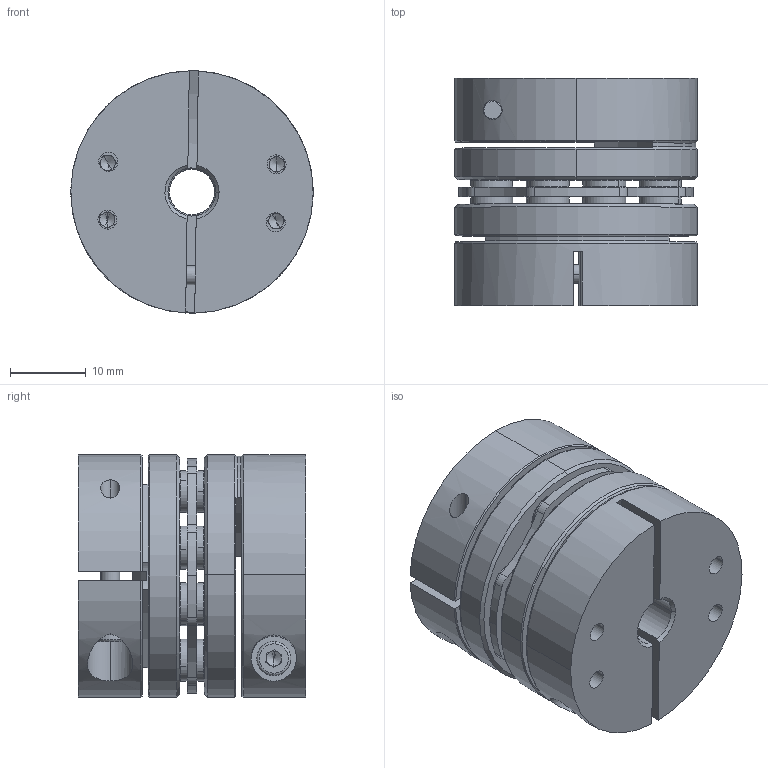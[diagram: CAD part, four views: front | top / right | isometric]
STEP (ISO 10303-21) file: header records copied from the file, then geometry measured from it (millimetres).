
FILE_DESCRIPTION (( 'STEP AP203' ), '1' );
FILE_NAME ('LDG-32-B1-6-6.35.STEP', '2021-10-28T05:04:53', ( '' ), ( '' ), 'SwSTEP 2.0', 'SolidWorks 2018', '' );
FILE_SCHEMA (( 'CONFIG_CONTROL_DESIGN' ));
Length unit declared in the file: millimetre
Products named in the file (2): 錨璃5^LDG-32蚾饜芞1; LDG-32-B1-6-6.35
Assembly tree (1 placements, depth 2):
  LDG-32-B1-6-6.35
    錨璃5^LDG-32蚾饜芞1
Bounding box: 32 x 30 x 32 mm (x, y, z)
Volume: 19020.5 mm3; surface area: 13404.2 mm2
Topology: 1 solids, 11 shells, 795 faces, 1967 edges, 1216 vertices
Faces by surface type: cylinder 301, plane 244, cone 230, torus 20
Entity records: 24193 total; most frequent: CARTESIAN_POINT 4474, DIRECTION 4465, ORIENTED_EDGE 3878, EDGE_CURVE 1939, AXIS2_PLACEMENT_3D 1819, VERTEX_POINT 1216, CIRCLE 1020, EDGE_LOOP 939
